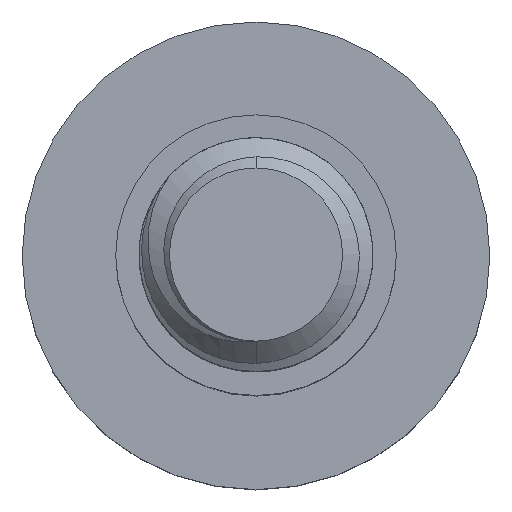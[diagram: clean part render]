
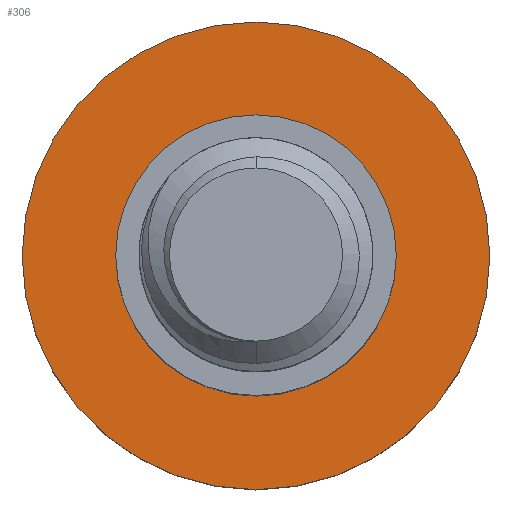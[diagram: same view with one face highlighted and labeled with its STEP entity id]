
A CAD part, top view. The second image highlights one B-rep face of the part: STEP entity #306.
In plain terms, the highlighted planar face has unit normal (0, 0, 1).
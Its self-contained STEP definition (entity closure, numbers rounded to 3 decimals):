
#214 = AXIS2_PLACEMENT_3D ( 'NONE', #3391, #1518, #943 ) ;
#243 = ORIENTED_EDGE ( 'NONE', *, *, #419, .T. ) ;
#304 = DIRECTION ( 'NONE',  ( 0., 0., -1. ) ) ;
#306 = ADVANCED_FACE ( 'NONE', ( #2830, #2018 ), #2846, .F. ) ;
#378 = DIRECTION ( 'NONE',  ( 0., 0., -1. ) ) ;
#408 = EDGE_CURVE ( 'NONE', #1606, #2681, #3317, .T. ) ;
#419 = EDGE_CURVE ( 'NONE', #2681, #1606, #2743, .T. ) ;
#746 = CARTESIAN_POINT ( 'NONE',  ( 0., 0., -16. ) ) ;
#823 = ORIENTED_EDGE ( 'NONE', *, *, #1202, .F. ) ;
#943 = DIRECTION ( 'NONE',  ( -1., 0., 0. ) ) ;
#951 = CARTESIAN_POINT ( 'NONE',  ( 0., 0., -16. ) ) ;
#1034 = AXIS2_PLACEMENT_3D ( 'NONE', #951, #378, #1883 ) ;
#1079 = DIRECTION ( 'NONE',  ( 0., 0., -1. ) ) ;
#1093 = CARTESIAN_POINT ( 'NONE',  ( 0., 0., -16. ) ) ;
#1202 = EDGE_CURVE ( 'NONE', #2085, #1462, #2682, .T. ) ;
#1299 = DIRECTION ( 'NONE',  ( 0., 0., -1. ) ) ;
#1365 = EDGE_LOOP ( 'NONE', ( #243, #2464 ) ) ;
#1462 = VERTEX_POINT ( 'NONE', #3336 ) ;
#1472 = CARTESIAN_POINT ( 'NONE',  ( 6., 0., -16. ) ) ;
#1488 = ORIENTED_EDGE ( 'NONE', *, *, #2866, .F. ) ;
#1492 = CIRCLE ( 'NONE', #214, 10. ) ;
#1518 = DIRECTION ( 'NONE',  ( 0., 0., -1. ) ) ;
#1606 = VERTEX_POINT ( 'NONE', #1472 ) ;
#1608 = CARTESIAN_POINT ( 'NONE',  ( -6., 0., -16. ) ) ;
#1651 = AXIS2_PLACEMENT_3D ( 'NONE', #3448, #1079, #2104 ) ;
#1883 = DIRECTION ( 'NONE',  ( -1., 0., 0. ) ) ;
#2018 = FACE_OUTER_BOUND ( 'NONE', #2066, .T. ) ;
#2066 = EDGE_LOOP ( 'NONE', ( #1488, #823 ) ) ;
#2085 = VERTEX_POINT ( 'NONE', #3449 ) ;
#2104 = DIRECTION ( 'NONE',  ( -1., 0., 0. ) ) ;
#2391 = DIRECTION ( 'NONE',  ( -1., 0., 0. ) ) ;
#2464 = ORIENTED_EDGE ( 'NONE', *, *, #408, .T. ) ;
#2535 = DIRECTION ( 'NONE',  ( -1., 0., 0. ) ) ;
#2681 = VERTEX_POINT ( 'NONE', #1608 ) ;
#2682 = CIRCLE ( 'NONE', #1651, 10. ) ;
#2743 = CIRCLE ( 'NONE', #3031, 6. ) ;
#2830 = FACE_BOUND ( 'NONE', #1365, .T. ) ;
#2846 = PLANE ( 'NONE',  #1034 ) ;
#2866 = EDGE_CURVE ( 'NONE', #1462, #2085, #1492, .T. ) ;
#3031 = AXIS2_PLACEMENT_3D ( 'NONE', #1093, #304, #2535 ) ;
#3317 = CIRCLE ( 'NONE', #3549, 6. ) ;
#3336 = CARTESIAN_POINT ( 'NONE',  ( 10., 0., -16. ) ) ;
#3391 = CARTESIAN_POINT ( 'NONE',  ( 0., 0., -16. ) ) ;
#3448 = CARTESIAN_POINT ( 'NONE',  ( 0., 0., -16. ) ) ;
#3449 = CARTESIAN_POINT ( 'NONE',  ( -10., 0., -16. ) ) ;
#3549 = AXIS2_PLACEMENT_3D ( 'NONE', #746, #1299, #2391 ) ;
